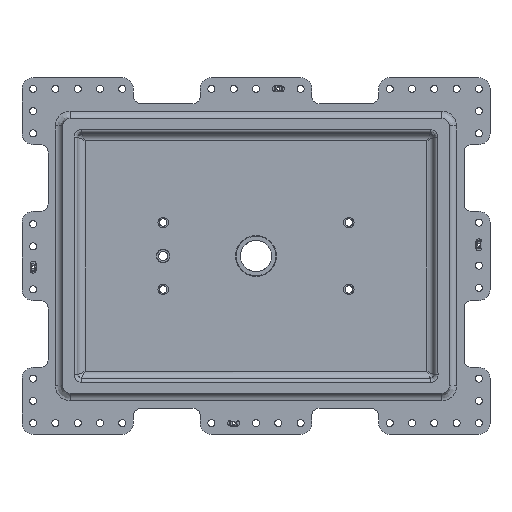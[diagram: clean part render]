
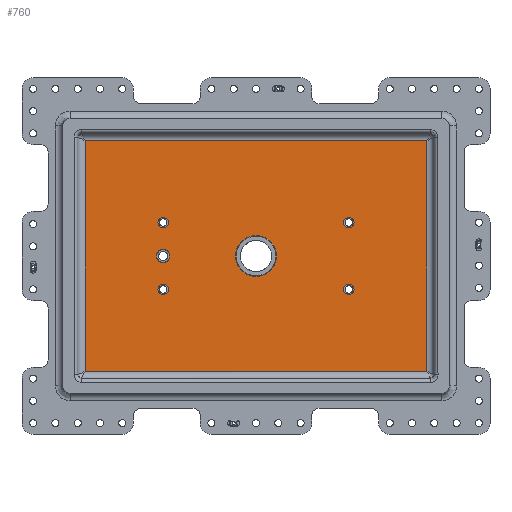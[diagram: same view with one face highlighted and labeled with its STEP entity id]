
A CAD part, top view. The second image highlights one B-rep face of the part: STEP entity #760.
In plain terms, the highlighted planar face has unit normal (0, 0, 1).
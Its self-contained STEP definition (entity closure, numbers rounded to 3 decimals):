
#760=ADVANCED_FACE('Solid.1 (  with JELE 19274 : from *SOL153893 - wsp EGT017 -  ) ( Brep from *SOL153893 )',(#2098,#2099,#2100,#2101,#2102,#2103,#2104),#2105,.T.);
#2098=FACE_OUTER_BOUND('',#4356,.T.);
#2099=FACE_BOUND('',#4357,.T.);
#2100=FACE_BOUND('',#4358,.T.);
#2101=FACE_BOUND('',#4359,.T.);
#2102=FACE_BOUND('',#4360,.T.);
#2103=FACE_BOUND('',#4361,.T.);
#2104=FACE_BOUND('',#4362,.T.);
#2105=PLANE('',#4363);
#4356=EDGE_LOOP('',(#7132,#7133,#7134,#7135));
#4357=EDGE_LOOP('',(#7136,#7137));
#4358=EDGE_LOOP('',(#7138,#7139));
#4359=EDGE_LOOP('',(#7140,#7141));
#4360=EDGE_LOOP('',(#7142,#7143));
#4361=EDGE_LOOP('',(#7144,#7145));
#4362=EDGE_LOOP('',(#7146,#7147));
#4363=AXIS2_PLACEMENT_3D('',#7148,#7149,#7150);
#7132=ORIENTED_EDGE('',*,*,#12863,.T.);
#7133=ORIENTED_EDGE('',*,*,#12864,.T.);
#7134=ORIENTED_EDGE('',*,*,#12865,.T.);
#7135=ORIENTED_EDGE('',*,*,#12866,.T.);
#7136=ORIENTED_EDGE('',*,*,#12867,.F.);
#7137=ORIENTED_EDGE('',*,*,#12868,.F.);
#7138=ORIENTED_EDGE('',*,*,#12869,.F.);
#7139=ORIENTED_EDGE('',*,*,#12870,.F.);
#7140=ORIENTED_EDGE('',*,*,#12871,.F.);
#7141=ORIENTED_EDGE('',*,*,#12872,.F.);
#7142=ORIENTED_EDGE('',*,*,#12873,.F.);
#7143=ORIENTED_EDGE('',*,*,#12874,.F.);
#7144=ORIENTED_EDGE('',*,*,#12875,.F.);
#7145=ORIENTED_EDGE('',*,*,#12876,.F.);
#7146=ORIENTED_EDGE('',*,*,#12877,.F.);
#7147=ORIENTED_EDGE('',*,*,#12878,.F.);
#7148=CARTESIAN_POINT('',(0.0,-265.0,24.0));
#7149=DIRECTION('',(0.0,0.0,1.0));
#7150=DIRECTION('',(1.0,0.0,0.0));
#12863=EDGE_CURVE('',#15123,#15124,#15125,.T.);
#12864=EDGE_CURVE('',#15124,#15126,#15127,.T.);
#12865=EDGE_CURVE('',#15126,#15128,#15129,.T.);
#12866=EDGE_CURVE('',#15128,#15123,#15130,.T.);
#12867=EDGE_CURVE('',#15131,#15132,#15133,.T.);
#12868=EDGE_CURVE('',#15132,#15131,#15134,.T.);
#12869=EDGE_CURVE('',#15135,#15136,#15137,.T.);
#12870=EDGE_CURVE('',#15136,#15135,#15138,.T.);
#12871=EDGE_CURVE('',#15139,#15140,#15141,.T.);
#12872=EDGE_CURVE('',#15140,#15139,#15142,.T.);
#12873=EDGE_CURVE('',#15143,#15144,#15145,.T.);
#12874=EDGE_CURVE('',#15144,#15143,#15146,.T.);
#12875=EDGE_CURVE('',#15147,#15148,#15149,.T.);
#12876=EDGE_CURVE('',#15148,#15147,#15150,.T.);
#12877=EDGE_CURVE('',#15151,#15152,#15153,.T.);
#12878=EDGE_CURVE('',#15152,#15151,#15154,.T.);
#15123=VERTEX_POINT('',#18435);
#15124=VERTEX_POINT('',#18436);
#15125=LINE('',#18437,#18438);
#15126=VERTEX_POINT('',#18439);
#15127=LINE('',#18440,#18441);
#15128=VERTEX_POINT('',#18442);
#15129=LINE('',#18443,#18444);
#15130=LINE('',#18445,#18446);
#15131=VERTEX_POINT('',#18447);
#15132=VERTEX_POINT('',#18448);
#15133=CIRCLE('',#18449,7.0);
#15134=CIRCLE('',#18450,7.0);
#15135=VERTEX_POINT('',#18451);
#15136=VERTEX_POINT('',#18452);
#15137=CIRCLE('',#18453,7.0);
#15138=CIRCLE('',#18454,7.0);
#15139=VERTEX_POINT('',#18455);
#15140=VERTEX_POINT('',#18456);
#15141=CIRCLE('',#18457,7.0);
#15142=CIRCLE('',#18458,7.0);
#15143=VERTEX_POINT('',#18459);
#15144=VERTEX_POINT('',#18460);
#15145=CIRCLE('',#18461,7.0);
#15146=CIRCLE('',#18462,7.0);
#15147=VERTEX_POINT('',#18463);
#15148=VERTEX_POINT('',#18464);
#15149=CIRCLE('',#18465,9.0);
#15150=CIRCLE('',#18466,9.0);
#15151=VERTEX_POINT('',#18467);
#15152=VERTEX_POINT('',#18468);
#15153=CIRCLE('',#18469,27.5);
#15154=CIRCLE('',#18470,27.5);
#18435=CARTESIAN_POINT('',(-230.0,-155.0,24.0));
#18436=CARTESIAN_POINT('',(230.0,-155.0,24.0));
#18437=CARTESIAN_POINT('',(0.0,-155.0,24.0));
#18438=VECTOR('',#22603,1.0);
#18439=CARTESIAN_POINT('',(230.0,155.0,24.0));
#18440=CARTESIAN_POINT('',(230.0,0.,24.0));
#18441=VECTOR('',#22604,1.0);
#18442=CARTESIAN_POINT('',(-230.0,155.0,24.0));
#18443=CARTESIAN_POINT('',(0.,155.0,24.0));
#18444=VECTOR('',#22605,1.0);
#18445=CARTESIAN_POINT('',(-230.0,0.0,24.0));
#18446=VECTOR('',#22606,1.0);
#18447=CARTESIAN_POINT('',(125.0,52.0,24.0));
#18448=CARTESIAN_POINT('',(125.0,38.0,24.0));
#18449=AXIS2_PLACEMENT_3D('',#22607,#22608,#22609);
#18450=AXIS2_PLACEMENT_3D('',#22610,#22611,#22612);
#18451=CARTESIAN_POINT('',(-125.0,52.0,24.0));
#18452=CARTESIAN_POINT('',(-125.0,38.0,24.0));
#18453=AXIS2_PLACEMENT_3D('',#22613,#22614,#22615);
#18454=AXIS2_PLACEMENT_3D('',#22616,#22617,#22618);
#18455=CARTESIAN_POINT('',(125.0,-38.0,24.0));
#18456=CARTESIAN_POINT('',(125.0,-52.0,24.0));
#18457=AXIS2_PLACEMENT_3D('',#22619,#22620,#22621);
#18458=AXIS2_PLACEMENT_3D('',#22622,#22623,#22624);
#18459=CARTESIAN_POINT('',(-125.0,-38.0,24.0));
#18460=CARTESIAN_POINT('',(-125.0,-52.0,24.0));
#18461=AXIS2_PLACEMENT_3D('',#22625,#22626,#22627);
#18462=AXIS2_PLACEMENT_3D('',#22628,#22629,#22630);
#18463=CARTESIAN_POINT('',(-125.0,9.0,24.0));
#18464=CARTESIAN_POINT('',(-125.0,-9.0,24.0));
#18465=AXIS2_PLACEMENT_3D('',#22631,#22632,#22633);
#18466=AXIS2_PLACEMENT_3D('',#22634,#22635,#22636);
#18467=CARTESIAN_POINT('',(0.,27.5,24.0));
#18468=CARTESIAN_POINT('',(0.,-27.5,24.0));
#18469=AXIS2_PLACEMENT_3D('',#22637,#22638,#22639);
#18470=AXIS2_PLACEMENT_3D('',#22640,#22641,#22642);
#22603=DIRECTION('',(1.0,0.0,0.0));
#22604=DIRECTION('',(0.0,1.0,0.0));
#22605=DIRECTION('',(-1.0,0.0,0.0));
#22606=DIRECTION('',(0.0,-1.0,0.0));
#22607=CARTESIAN_POINT('',(125.0,45.0,24.0));
#22608=DIRECTION('',(0.0,0.0,1.0));
#22609=DIRECTION('',(1.0,0.0,0.0));
#22610=CARTESIAN_POINT('',(125.0,45.0,24.0));
#22611=DIRECTION('',(0.0,0.0,1.0));
#22612=DIRECTION('',(1.0,0.0,0.0));
#22613=CARTESIAN_POINT('',(-125.0,45.0,24.0));
#22614=DIRECTION('',(0.0,0.0,1.0));
#22615=DIRECTION('',(1.0,0.0,0.0));
#22616=CARTESIAN_POINT('',(-125.0,45.0,24.0));
#22617=DIRECTION('',(0.0,0.0,1.0));
#22618=DIRECTION('',(1.0,0.0,0.0));
#22619=CARTESIAN_POINT('',(125.0,-45.0,24.0));
#22620=DIRECTION('',(0.0,0.0,1.0));
#22621=DIRECTION('',(1.0,0.0,0.0));
#22622=CARTESIAN_POINT('',(125.0,-45.0,24.0));
#22623=DIRECTION('',(0.0,0.0,1.0));
#22624=DIRECTION('',(1.0,0.0,0.0));
#22625=CARTESIAN_POINT('',(-125.0,-45.0,24.0));
#22626=DIRECTION('',(0.0,0.0,1.0));
#22627=DIRECTION('',(1.0,0.0,0.0));
#22628=CARTESIAN_POINT('',(-125.0,-45.0,24.0));
#22629=DIRECTION('',(0.0,0.0,1.0));
#22630=DIRECTION('',(1.0,0.0,0.0));
#22631=CARTESIAN_POINT('',(-125.0,0.0,24.0));
#22632=DIRECTION('',(0.0,0.0,1.0));
#22633=DIRECTION('',(1.0,0.0,0.0));
#22634=CARTESIAN_POINT('',(-125.0,0.0,24.0));
#22635=DIRECTION('',(0.0,0.0,1.0));
#22636=DIRECTION('',(1.0,0.0,0.0));
#22637=CARTESIAN_POINT('',(0.0,0.0,24.0));
#22638=DIRECTION('',(0.0,0.0,1.0));
#22639=DIRECTION('',(1.0,0.0,0.0));
#22640=CARTESIAN_POINT('',(0.0,0.0,24.0));
#22641=DIRECTION('',(0.0,0.0,1.0));
#22642=DIRECTION('',(1.0,0.0,0.0));
